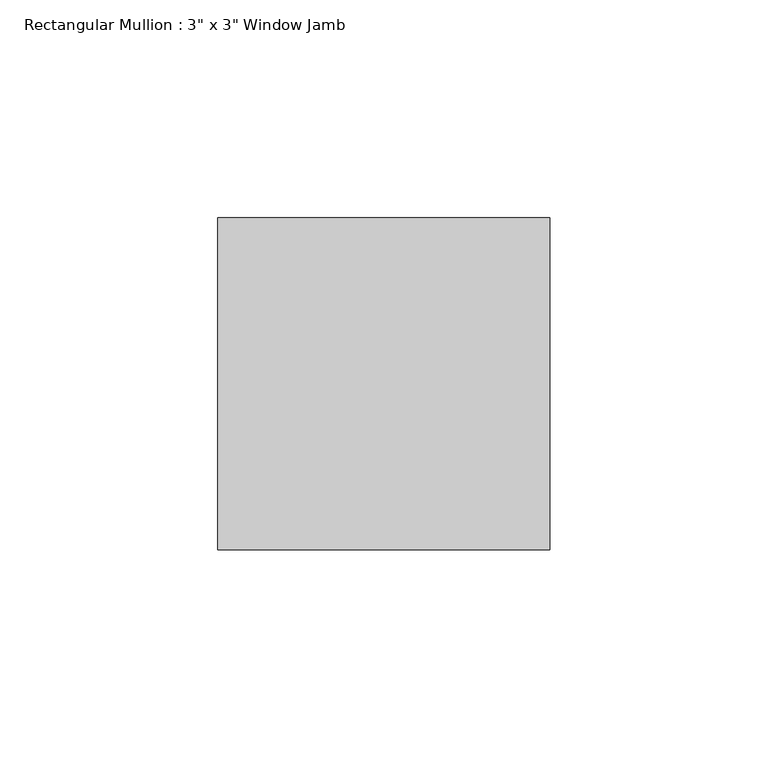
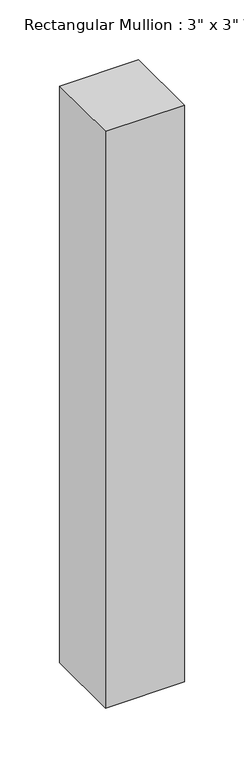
"""IFC4 building model written with IfcOpenShell, lengths in millimetres: member geometry."""

from ifc_helpers import new_model, si_unit, frame, origin, place, context, project, spatial, polyline, outline, extrude, source, transform, mapped, element, save


def member_5f3aadc6(model_context):
    return source(origin(), model_context, "Body", "SweptSolid", [
        extrude(outline(polyline([(0.0, 50.8), (0.0, -25.4), (-76.2, -25.4), (-76.2, 50.8), (0.0, 50.8)])), frame((0.0, 0.0, -587.8988374), z_axis=(0.0, 0.0, 1.0), x_axis=(1.0, 0.0, 0.0)), (0.0, 0.0, 1.0), 587.8988374),
    ])


if __name__ == "__main__":
    model = new_model("IFC4")
    model_context = context("Model", 3, world=origin())
    ifc_project = project(units=[si_unit("LENGTHUNIT", "METRE", prefix="MILLI")], contexts=[model_context])
    site = spatial("IfcSite", under=ifc_project)
    building = spatial("IfcBuilding", under=site)
    placement = place(None, origin())
    member_shape = member_5f3aadc6(model_context)
    element("IfcMember", 1, ObjectType="Rectangular Mullion : 3\" x 3\" Window Jamb", at=placement, inside=building, context=model_context, shape_type="MappedRepresentation", body=[
        mapped(member_shape, transform((0.0, 0.0, 0.0), x_axis=(1.0, 0.0, 0.0), y_axis=(0.0, 1.0, 0.0), z_axis=(0.0, 0.0, 1.0))),
    ])
    save(model, "model.ifc")
